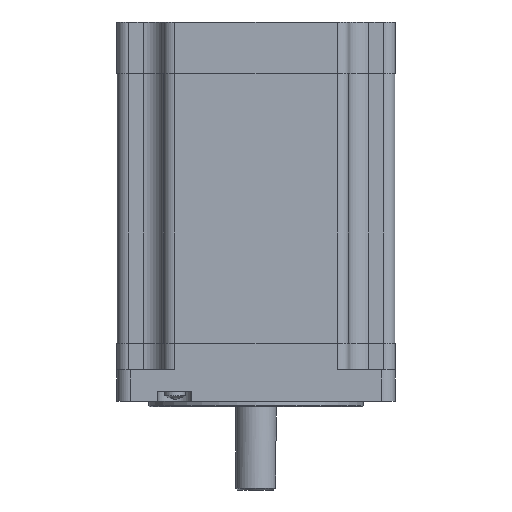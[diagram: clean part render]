
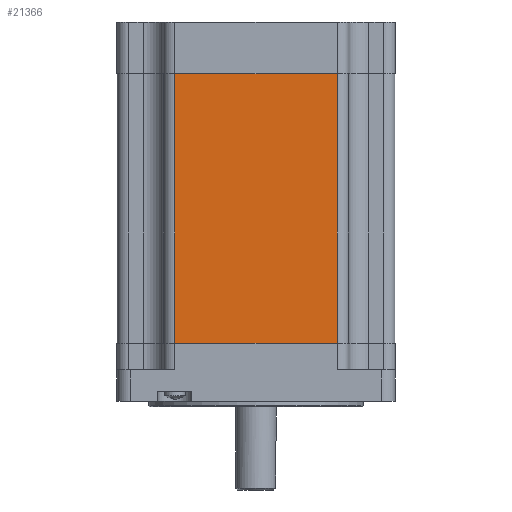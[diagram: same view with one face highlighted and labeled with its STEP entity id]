
A CAD part, front view. The second image highlights one B-rep face of the part: STEP entity #21366.
In plain terms, the highlighted planar face has unit normal (0, -1, 0).
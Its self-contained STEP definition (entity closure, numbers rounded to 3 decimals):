
#100 = VECTOR ( 'NONE', #29378, 1000. ) ;
#124 = CARTESIAN_POINT ( 'NONE',  ( -32.02, -54.87, 106.6 ) ) ;
#1284 = DIRECTION ( 'NONE',  ( 1., 0., 0. ) ) ;
#1493 = CARTESIAN_POINT ( 'NONE',  ( -32.02, -54.87, 106.6 ) ) ;
#3611 = ORIENTED_EDGE ( 'NONE', *, *, #49336, .F. ) ;
#4455 = VERTEX_POINT ( 'NONE', #25285 ) ;
#5512 = LINE ( 'NONE', #14253, #27692 ) ;
#5884 = DIRECTION ( 'NONE',  ( 0., 0., -1. ) ) ;
#6202 = VERTEX_POINT ( 'NONE', #27360 ) ;
#7094 = CARTESIAN_POINT ( 'NONE',  ( -36.52, -54.87, 0. ) ) ;
#7281 = PLANE ( 'NONE',  #31044 ) ;
#8343 = VECTOR ( 'NONE', #22122, 1000. ) ;
#8825 = VECTOR ( 'NONE', #5884, 1000. ) ;
#12973 = EDGE_CURVE ( 'NONE', #6202, #4455, #5512, .T. ) ;
#14253 = CARTESIAN_POINT ( 'NONE',  ( 0., -54.87, 0. ) ) ;
#16625 = EDGE_CURVE ( 'NONE', #27695, #4455, #44975, .T. ) ;
#18382 = EDGE_CURVE ( 'NONE', #30902, #6202, #43459, .T. ) ;
#18472 = CARTESIAN_POINT ( 'NONE',  ( 32.02, -54.87, 246.485 ) ) ;
#20656 = ORIENTED_EDGE ( 'NONE', *, *, #16625, .F. ) ;
#21366 = ADVANCED_FACE ( 'NONE', ( #48396 ), #7281, .T. ) ;
#22122 = DIRECTION ( 'NONE',  ( 0., 0., -1. ) ) ;
#23355 = DIRECTION ( 'NONE',  ( 0., 0., -1. ) ) ;
#25285 = CARTESIAN_POINT ( 'NONE',  ( 32.02, -54.87, 0. ) ) ;
#26470 = CARTESIAN_POINT ( 'NONE',  ( -32.02, -54.87, 0. ) ) ;
#27360 = CARTESIAN_POINT ( 'NONE',  ( -32.02, -54.87, 0. ) ) ;
#27692 = VECTOR ( 'NONE', #1284, 1000. ) ;
#27695 = VERTEX_POINT ( 'NONE', #50808 ) ;
#28574 = EDGE_LOOP ( 'NONE', ( #20656, #3611, #34516, #48332 ) ) ;
#29378 = DIRECTION ( 'NONE',  ( 1., 0., 0. ) ) ;
#30902 = VERTEX_POINT ( 'NONE', #1493 ) ;
#31044 = AXIS2_PLACEMENT_3D ( 'NONE', #7094, #53033, #23355 ) ;
#34516 = ORIENTED_EDGE ( 'NONE', *, *, #18382, .T. ) ;
#40100 = LINE ( 'NONE', #124, #100 ) ;
#43459 = LINE ( 'NONE', #26470, #8825 ) ;
#44975 = LINE ( 'NONE', #18472, #8343 ) ;
#48332 = ORIENTED_EDGE ( 'NONE', *, *, #12973, .T. ) ;
#48396 = FACE_OUTER_BOUND ( 'NONE', #28574, .T. ) ;
#49336 = EDGE_CURVE ( 'NONE', #30902, #27695, #40100, .T. ) ;
#50808 = CARTESIAN_POINT ( 'NONE',  ( 32.02, -54.87, 106.6 ) ) ;
#53033 = DIRECTION ( 'NONE',  ( 0., -1., 0. ) ) ;
